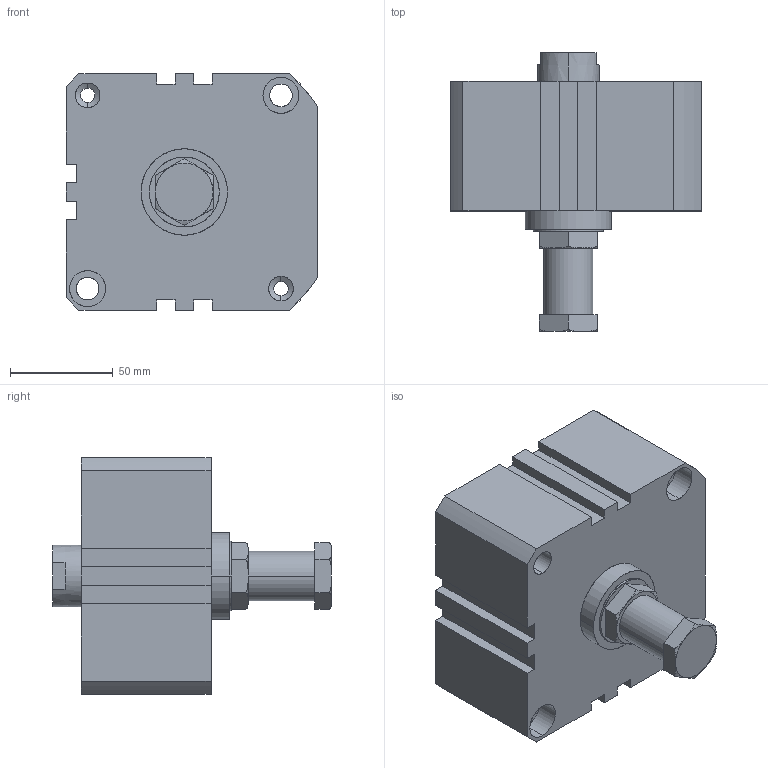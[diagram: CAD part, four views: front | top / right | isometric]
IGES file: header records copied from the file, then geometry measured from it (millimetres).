
Start section: SolidWorks IGES file using analytic representation for surfaces
Global section: file name: C:\Users\Toshiba\Desktop\XCA2-100-10.IGS; native system: SolidWorks 2014; preprocessor: SolidWorks 2014; author: Toshiba; date: 160524.103216; units: millimetre
Bounding box: 122.5 x 135.5 x 115 mm (x, y, z)
Surface area: 83004.3 mm2 (no closed solid volume)
Topology: 0 solids, 0 shells, 147 faces, 2699 edges, 2693 vertices
Faces by surface type: bspline 76, revolution 71
